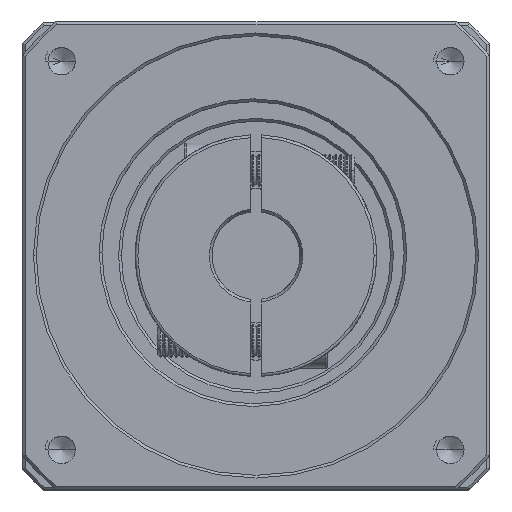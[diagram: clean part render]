
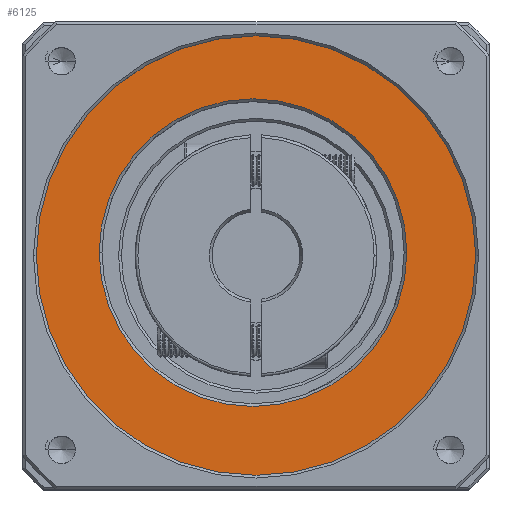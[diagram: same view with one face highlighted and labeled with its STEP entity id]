
A CAD part, top view. The second image highlights one B-rep face of the part: STEP entity #6125.
In plain terms, the highlighted planar face has unit normal (0, 0, 1).
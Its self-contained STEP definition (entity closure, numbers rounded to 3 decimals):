
#1164 = AXIS2_PLACEMENT_3D ( 'NONE', #115738, #27205, #66521 ) ;
#4736 = VERTEX_POINT ( 'NONE', #84115 ) ;
#6125 = ADVANCED_FACE ( 'NONE', ( #52349, #121251 ), #57643, .T. ) ;
#6409 = CARTESIAN_POINT ( 'NONE',  ( -41.15, 42.371, 120.185 ) ) ;
#6560 = DIRECTION ( 'NONE',  ( 1., 0., 0. ) ) ;
#12170 = ORIENTED_EDGE ( 'NONE', *, *, #83373, .T. ) ;
#13417 = VERTEX_POINT ( 'NONE', #32823 ) ;
#13489 = CIRCLE ( 'NONE', #1164, 40. ) ;
#14756 = ORIENTED_EDGE ( 'NONE', *, *, #110004, .T. ) ;
#19127 = DIRECTION ( 'NONE',  ( 1., 0., 0. ) ) ;
#26684 = AXIS2_PLACEMENT_3D ( 'NONE', #125456, #57435, #66784 ) ;
#27205 = DIRECTION ( 'NONE',  ( 0., 0., 1. ) ) ;
#27582 = AXIS2_PLACEMENT_3D ( 'NONE', #120135, #40076, #80701 ) ;
#28662 = EDGE_LOOP ( 'NONE', ( #14756, #12170 ) ) ;
#32823 = CARTESIAN_POINT ( 'NONE',  ( -121.15, 42.371, 120.185 ) ) ;
#40076 = DIRECTION ( 'NONE',  ( 0., 0., -1. ) ) ;
#48547 = DIRECTION ( 'NONE',  ( 0., 0., 1. ) ) ;
#52349 = FACE_OUTER_BOUND ( 'NONE', #110873, .T. ) ;
#54948 = VERTEX_POINT ( 'NONE', #111095 ) ;
#57435 = DIRECTION ( 'NONE',  ( 0., 0., -1. ) ) ;
#57643 = PLANE ( 'NONE',  #63576 ) ;
#63576 = AXIS2_PLACEMENT_3D ( 'NONE', #116658, #48547, #19127 ) ;
#65107 = DIRECTION ( 'NONE',  ( 0., 0., 1. ) ) ;
#65369 = CIRCLE ( 'NONE', #102347, 40. ) ;
#66521 = DIRECTION ( 'NONE',  ( 1., 0., 0. ) ) ;
#66784 = DIRECTION ( 'NONE',  ( 1., 0., 0. ) ) ;
#73981 = EDGE_CURVE ( 'NONE', #13417, #106540, #65369, .T. ) ;
#80701 = DIRECTION ( 'NONE',  ( 1., 0., 0. ) ) ;
#81287 = ORIENTED_EDGE ( 'NONE', *, *, #82747, .T. ) ;
#82747 = EDGE_CURVE ( 'NONE', #106540, #13417, #13489, .T. ) ;
#83373 = EDGE_CURVE ( 'NONE', #54948, #4736, #103623, .T. ) ;
#84115 = CARTESIAN_POINT ( 'NONE',  ( -53.692, 42.906, 120.185 ) ) ;
#102347 = AXIS2_PLACEMENT_3D ( 'NONE', #123775, #65107, #6560 ) ;
#103623 = CIRCLE ( 'NONE', #26684, 28. ) ;
#104488 = ORIENTED_EDGE ( 'NONE', *, *, #73981, .T. ) ;
#106540 = VERTEX_POINT ( 'NONE', #6409 ) ;
#110004 = EDGE_CURVE ( 'NONE', #4736, #54948, #115207, .T. ) ;
#110873 = EDGE_LOOP ( 'NONE', ( #81287, #104488 ) ) ;
#111095 = CARTESIAN_POINT ( 'NONE',  ( -109.692, 42.906, 120.185 ) ) ;
#115207 = CIRCLE ( 'NONE', #27582, 28. ) ;
#115738 = CARTESIAN_POINT ( 'NONE',  ( -81.15, 42.371, 120.185 ) ) ;
#116658 = CARTESIAN_POINT ( 'NONE',  ( -81.15, 42.371, 120.185 ) ) ;
#120135 = CARTESIAN_POINT ( 'NONE',  ( -81.692, 42.906, 120.185 ) ) ;
#121251 = FACE_BOUND ( 'NONE', #28662, .T. ) ;
#123775 = CARTESIAN_POINT ( 'NONE',  ( -81.15, 42.371, 120.185 ) ) ;
#125456 = CARTESIAN_POINT ( 'NONE',  ( -81.692, 42.906, 120.185 ) ) ;
